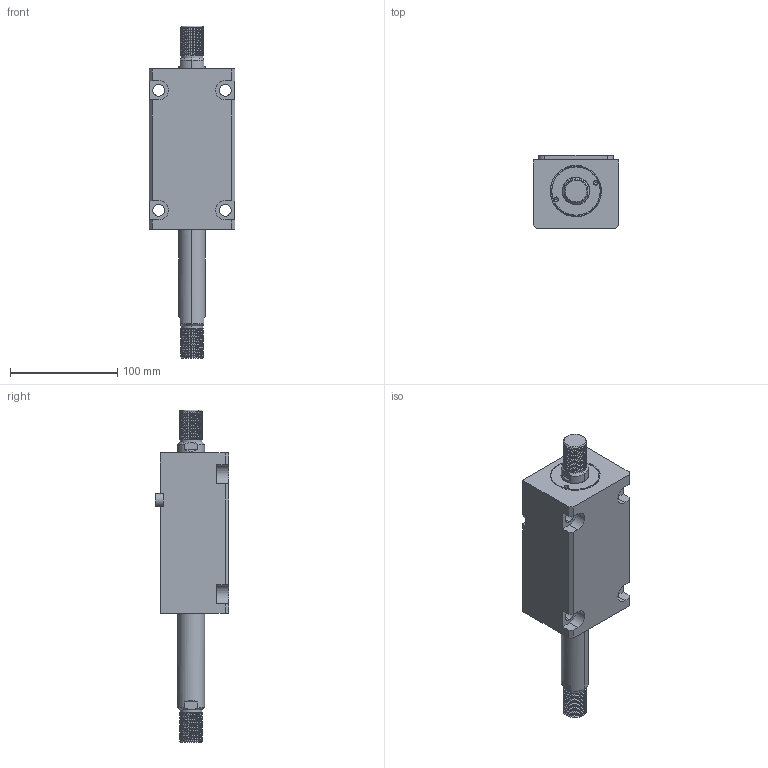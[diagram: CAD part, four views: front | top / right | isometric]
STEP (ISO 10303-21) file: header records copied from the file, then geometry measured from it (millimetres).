
FILE_DESCRIPTION (( 'STEP AP214' ), '1' );
FILE_NAME ('chtb-lwm40x80w_asm.STEP', '2018-05-31T00:49:50', ( 'Windows' ), ( 'Microsoft' ), 'SwSTEP 2.0', 'SolidWorks 2015', '' );
FILE_SCHEMA (( 'AUTOMOTIVE_DESIGN' ));
Length unit declared in the file: millimetre
Products named in the file (5): CHTB-SW40X80NHSG; CHTB-SD40QG; CHTB-LA40PJ; CHTB-LWM40X80NBT; chtb-lwm40x80w_asm
Assembly tree (4 placements, depth 2):
  chtb-lwm40x80w_asm
    CHTB-LWM40X80NBT
    CHTB-LA40PJ
    CHTB-SD40QG
    CHTB-SW40X80NHSG
Bounding box: 80 x 68.5 x 310 mm (x, y, z)
Volume: 742828.8 mm3; surface area: 121875.9 mm2
Topology: 4 solids, 4 shells, 252 faces, 699 edges, 465 vertices
Faces by surface type: cylinder 152, plane 57, bspline 18, cone 13, torus 12
Entity records: 17373 total; most frequent: CARTESIAN_POINT 11260, ORIENTED_EDGE 1386, DIRECTION 1092, EDGE_CURVE 693, VERTEX_POINT 465, AXIS2_PLACEMENT_3D 419, EDGE_LOOP 284, LINE 254
